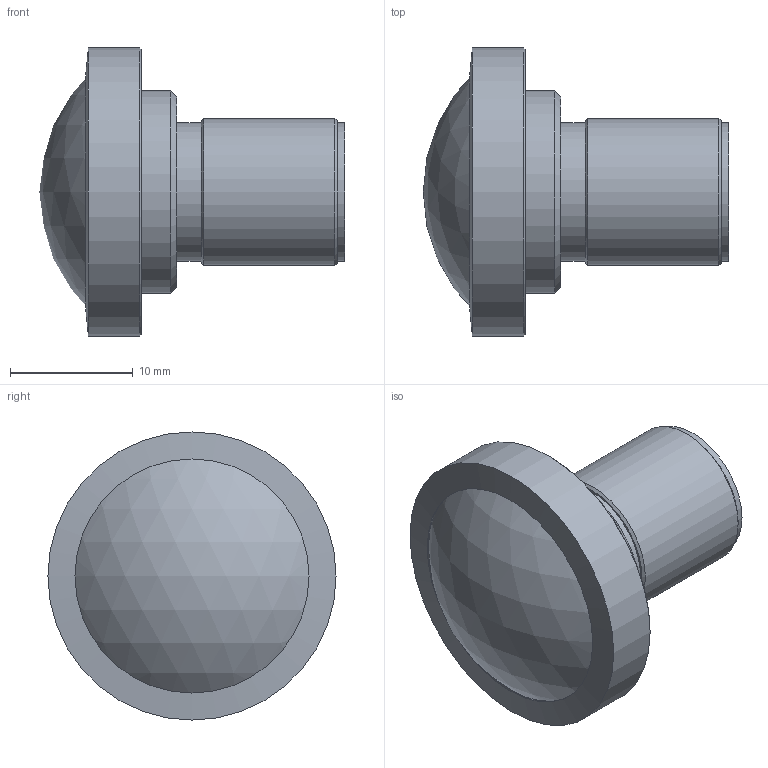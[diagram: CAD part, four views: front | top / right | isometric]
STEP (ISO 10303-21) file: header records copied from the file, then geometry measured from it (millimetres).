
FILE_DESCRIPTION(/* description */ (''),/* implementation_level */ '2;1');
FILE_NAME(/* name */ 'C:\Users\MaxHenkart\Desktop\Commonlands\Product\CIL281\CIL281-F1.8-M12A650 v1 DRAFT.stp',/* time_stamp */ '2024-07-02T10:05:06-07:00',/* author */ ('MaxHenkart'),/* organization */ (''),/* preprocessor_version */ 'ST-DEVELOPER v19',/* originating_system */ 'Autodesk Inventor 2023',/* authorisation */ '');
FILE_SCHEMA (('AUTOMOTIVE_DESIGN { 1 0 10303 214 3 1 1 }'));
Length unit declared in the file: millimetre
Products named in the file (5): CIL281; BODY_3; BODY_2; BODY_1; BODY_0
Assembly tree (4 placements, depth 2):
  CIL281
    BODY_3
    BODY_2
    BODY_1
    BODY_0
Bounding box: 24.9 x 23.5 x 23.5 mm (x, y, z)
Volume: 2663.2 mm3; surface area: 4072.1 mm2
Topology: 3 solids, 4 shells, 80 faces, 146 edges, 89 vertices
Faces by surface type: plane 33, cylinder 23, cone 22, sphere 2
Full cylindrical faces by diameter (mm): 5.9 x1, 6.9 x2, 7.1 x1, 7.3 x1, 10 x1, 10.1 x1, 11.3 x2, 12 x1, 13 x1, 13.4 x1, 15 x1, 16.2 x1, 16.5 x1, 17.2 x1, 20 x2, 21.3 x1, 21.4 x1, 21.8 x1, 22 x1, 23.5 x1
Entity records: 2090 total; most frequent: DIRECTION 392, CARTESIAN_POINT 311, ORIENTED_EDGE 270, AXIS2_PLACEMENT_3D 167, EDGE_CURVE 136, EDGE_LOOP 104, VERTEX_POINT 86, FACE_OUTER_BOUND 80
